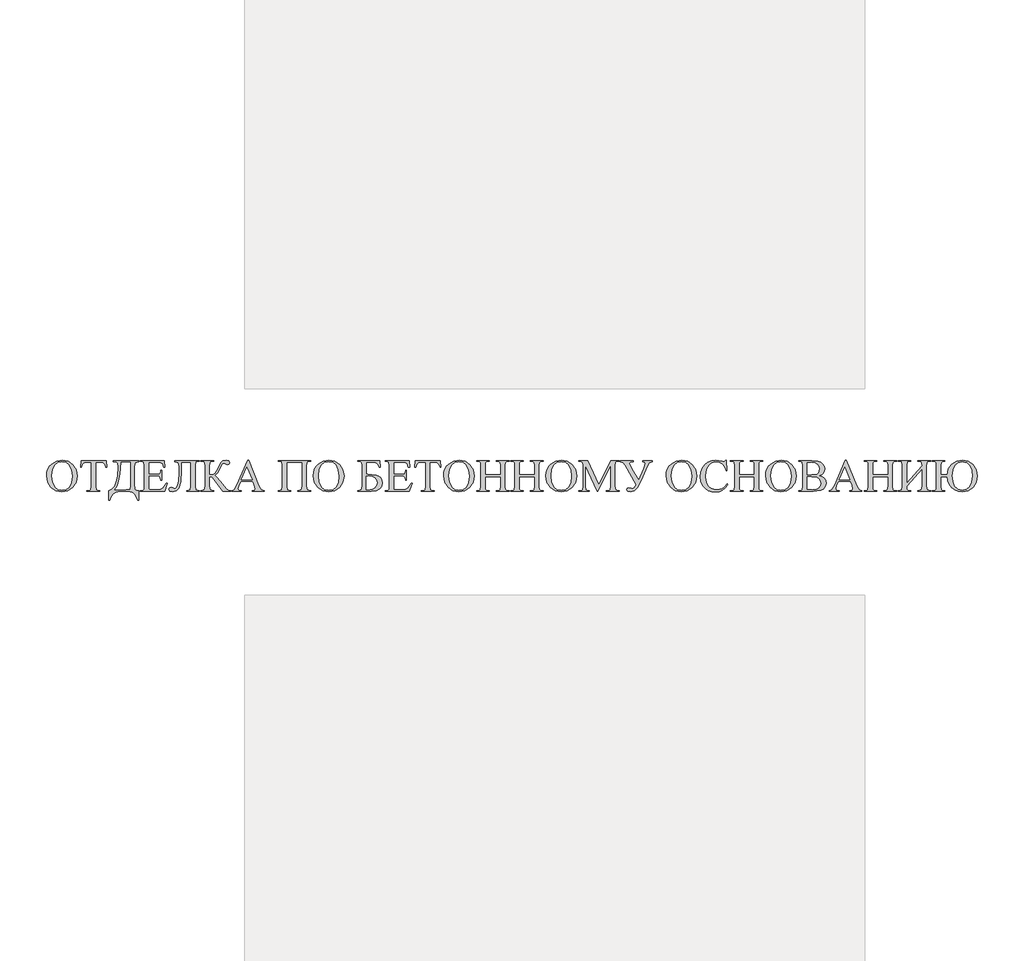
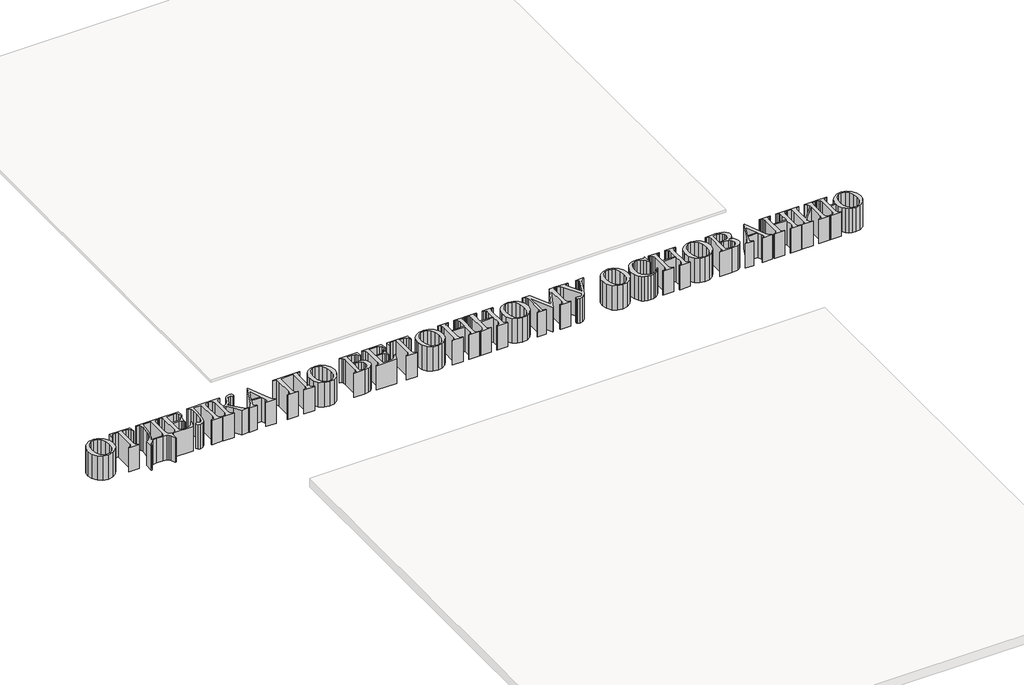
# One storey, part 13 of 17: 1 proxy.
"""IFC4 building model written with IfcOpenShell, lengths in millimetres."""

import ifcopenshell
import ifcopenshell.guid

model = None  # the IFC model being written
_history = None  # IfcOwnerHistory: only IFC2X3 demands one
_inside = {}  # id of a spatial element -> (the spatial element, [elements in it])
_under = {}  # id of a project, library or spatial element -> (it, [spatial elements below it])
_declared = {}  # id of a project -> (the project, [libraries it declares])
_typed = {}  # id of a type object -> (the type object, [elements of that type])
_made_of = {}  # id of a material, layer set ... -> (it, [elements and type objects made of it])


def new_model(schema):
    """Start an empty IFC model of exactly this schema.

    Asked for "IFC4X3", IfcOpenShell would pick the latest addendum, in which some entities
    have other attributes; the version numbers below select the first issue.
    IFC2X3 requires an IfcOwnerHistory on every rooted entity: one is made here for all.
    """
    global model, _history
    if schema == "IFC4X3":
        model = ifcopenshell.file(schema_version=(4, 3, 0, 0))
    else:
        model = ifcopenshell.file(schema=schema)
    _inside.clear()
    _under.clear()
    _declared.clear()
    _typed.clear()
    _made_of.clear()
    _history = None
    if model.schema == "IFC2X3":
        org = make("IfcOrganization", Name="unknown")
        user = make(
            "IfcPersonAndOrganization",
            ThePerson=make("IfcPerson", FamilyName="unknown"),
            TheOrganization=org,
        )
        app = make(
            "IfcApplication",
            ApplicationDeveloper=org,
            Version="unknown",
            ApplicationFullName="unknown",
            ApplicationIdentifier="unknown",
        )
        _history = make(
            "IfcOwnerHistory",
            OwningUser=user,
            OwningApplication=app,
            ChangeAction="ADDED",
            CreationDate=0,
        )
    return model


def make(cls, **values):
    """One entity of the class cls with the attributes given. An attribute that is None is left unset."""
    return model.create_entity(
        cls, **{name: value for name, value in values.items() if value is not None}
    )


def rooted(cls, **values):
    """An entity with a GlobalId (a new one), such as an element, a storey or a relation."""
    return make(cls, GlobalId=ifcopenshell.guid.new(), OwnerHistory=_history, **values)


def si_unit(unit_type, name, prefix=None):
    """IfcSIUnit, for example si_unit("LENGTHUNIT", "METRE", prefix="MILLI")."""
    return make("IfcSIUnit", UnitType=unit_type, Prefix=prefix, Name=name)


def assignment(units):
    """IfcUnitAssignment: the units of a project."""
    return None if units is None else make("IfcUnitAssignment", Units=units)


def point(xyz):
    """IfcCartesianPoint."""
    return None if xyz is None else make("IfcCartesianPoint", Coordinates=xyz)


def direction(xyz):
    """IfcDirection."""
    return None if xyz is None else make("IfcDirection", DirectionRatios=xyz)


def frame(location, z_axis=None, x_axis=None):
    """IfcAxis2Placement3D, a coordinate frame: its origin and axes. An axis left out is left unset."""
    return make(
        "IfcAxis2Placement3D",
        Location=point(location),
        Axis=direction(z_axis),
        RefDirection=direction(x_axis),
    )


def origin():
    """The frame at (0, 0, 0) with its axes left unset."""
    return frame((0.0, 0.0, 0.0))


def origin_with_axes():
    """The frame at (0, 0, 0) with the z axis (0, 0, 1) and the x axis (1, 0, 0) written out."""
    return frame((0.0, 0.0, 0.0), z_axis=(0.0, 0.0, 1.0), x_axis=(1.0, 0.0, 0.0))


def place(relative_to, where):
    """IfcLocalPlacement: puts the frame where relative to a parent placement (None: the world)."""
    return make(
        "IfcLocalPlacement", PlacementRelTo=relative_to, RelativePlacement=where
    )


def context(
    kind, dimensions, precision=None, world=None, true_north=None, identifier=None
):
    """IfcGeometricRepresentationContext, for example the 3D "Model" context."""
    return make(
        "IfcGeometricRepresentationContext",
        ContextIdentifier=identifier,
        ContextType=kind,
        CoordinateSpaceDimension=dimensions,
        Precision=precision,
        WorldCoordinateSystem=world,
        TrueNorth=true_north,
    )


def project(units=None, contexts=None):
    """IfcProject with its units and contexts."""
    return rooted(
        "IfcProject",
        Name="project",
        RepresentationContexts=contexts,
        UnitsInContext=assignment(units),
    )


def spatial(cls, under=None, at=None, **own):
    """A site, building, storey or space (cls), placed at a placement, below another one or the project."""
    s = rooted(cls, ObjectPlacement=at, **own)
    if under is not None:
        _under.setdefault(under.id(), (under, []))[1].append(s)
    return s


def polyline(points):
    """IfcPolyline through the points."""
    return make("IfcPolyline", Points=[point(p) for p in points])


def outline(outer, holes=None, kind="AREA"):
    """IfcArbitraryClosedProfileDef: a profile drawn as a closed curve; with holes, ...WithVoids."""
    if holes is None:
        return make("IfcArbitraryClosedProfileDef", ProfileType=kind, OuterCurve=outer)
    return make(
        "IfcArbitraryProfileDefWithVoids",
        ProfileType=kind,
        OuterCurve=outer,
        InnerCurves=holes,
    )


def extrude(swept, where, along, depth):
    """IfcExtrudedAreaSolid: the profile swept, set in the frame where, extruded along a direction by depth."""
    return make(
        "IfcExtrudedAreaSolid",
        SweptArea=swept,
        Position=where,
        ExtrudedDirection=direction(along),
        Depth=depth,
    )


def shape(context_of_items, identifier, shape_type, items):
    """IfcShapeRepresentation: the items that make up one representation, for example the "Body"."""
    return make(
        "IfcShapeRepresentation",
        ContextOfItems=context_of_items,
        RepresentationIdentifier=identifier,
        RepresentationType=shape_type,
        Items=items,
    )


def made_of(thing, what):
    """Note that an element or type object is made of a material, layer set ...; save() writes the relation."""
    if what is not None:
        _made_of.setdefault(what.id(), (what, []))[1].append(thing)
    return thing


def element(
    cls,
    number,
    at=None,
    inside=None,
    cuts=None,
    type_object=None,
    material=None,
    context=None,
    identifier="Body",
    shape_type=None,
    held_by="IfcProductDefinitionShape",
    body=None,
    shapes=None,
    **own,
):
    """One element of the class cls, such as IfcWall. Its Tag is "e" and its number.

    at: its placement. inside: the storey or other place that contains it. cuts: it is an
    opening in that element (IfcRelVoidsElement). A single representation is given by context,
    identifier, shape_type and body (its items); several are given by shapes. held_by: the class
    of the entity that holds the representations. save() writes the other relations.
    """
    e = rooted(cls, Tag="e%d" % number, ObjectPlacement=at, **own)
    if body is not None:
        shapes = [shape(context, identifier, shape_type, body)]
    if shapes is not None:
        e.Representation = make(held_by, Representations=shapes)
    if inside is not None:
        _inside.setdefault(inside.id(), (inside, []))[1].append(e)
    if cuts is not None:
        rooted(
            "IfcRelVoidsElement", RelatingBuildingElement=cuts, RelatedOpeningElement=e
        )
    if type_object is not None:
        _typed.setdefault(type_object.id(), (type_object, []))[1].append(e)
    return made_of(e, material)


def aggregate(whole, parts):
    """IfcRelAggregates: a whole, such as a stair, and the parts it consists of."""
    return rooted("IfcRelAggregates", RelatingObject=whole, RelatedObjects=parts)


def save(model, path):
    """Write the relations noted so far, then the file.

    IfcRelAggregates (storeys below a building ...), IfcRelContainedInSpatialStructure (elements
    in a storey), IfcRelDefinesByType, IfcRelAssociatesMaterial and IfcRelDeclares: one each for
    every whole, place, type object, material and project.
    """
    for whole, parts in _under.values():
        aggregate(whole, parts)
    for where, things in _inside.values():
        rooted(
            "IfcRelContainedInSpatialStructure",
            RelatedElements=things,
            RelatingStructure=where,
        )
    for kind, things in _typed.values():
        rooted("IfcRelDefinesByType", RelatedObjects=things, RelatingType=kind)
    for what, things in _made_of.values():
        rooted("IfcRelAssociatesMaterial", RelatedObjects=things, RelatingMaterial=what)
    for by, libraries in _declared.values():
        rooted("IfcRelDeclares", RelatingContext=by, RelatedDefinitions=libraries)
    model.write(path)


model = new_model("IFC4")

# Units and contexts
model_context = context("Model", 3, world=origin())
ifc_project = project(units=[si_unit("LENGTHUNIT", "METRE", prefix="MILLI")], contexts=[model_context])

# Site, building, storey
site = spatial("IfcSite", under=ifc_project)
building = spatial("IfcBuilding", under=site)
storey = spatial("IfcBuildingStorey", under=building, Name="Уровень 1", Elevation=0.0)

# Proxy
placement = place(None, origin())
element("IfcBuildingElementProxy", 1, Name="SG_Текст 2", ObjectType="SG_Текст 2", at=placement, inside=storey, context=model_context, shape_type="SweptSolid", body=[
    extrude(outline(polyline([(6805.5457971, 9619.3850863), (6833.251642, 9613.9243699), (6856.9951991, 9597.5422205), (6873.317009, 9572.994138), (6878.7576123, 9543.0356218), (6873.2767827, 9512.2273257), (6856.834294, 9487.1412168), (6832.6080216, 9470.4724553), (6803.7758411, 9464.9162014), (6774.7978403, 9470.3366916), (6750.8581801, 9486.5981621), (6734.7928127, 9511.4680548), (6729.4376902, 9542.7138117), (6730.9838876, 9559.485653), (6735.6224796, 9574.6434152), (6743.3534663, 9588.1870981), (6754.1768476, 9600.116702), (6777.7594996, 9614.5679902), (6805.5457971, 9619.3850863)]), holes=[polyline([(6803.4138046, 9611.6616421), (6784.9700589, 9607.9809382), (6770.5891666, 9596.9388265), (6759.0341699, 9574.3417181), (6755.1825044, 9543.2367532), (6759.1749619, 9511.1965275), (6771.1523344, 9487.4831401), (6785.3823782, 9476.3505193), (6803.5344835, 9472.6396457), (6823.1447911, 9476.7024992), (6839.0140555, 9488.8910596), (6849.5131125, 9509.8388908), (6853.0127981, 9540.1795565), (6849.1611326, 9573.3260047), (6837.6061359, 9596.8181476), (6822.8833203, 9607.9507685), (6803.4138046, 9611.6616421)])]), origin_with_axes(), (0.0, 0.0, 1.0), 150.0),
    extrude(outline(polyline([(7017.7796087, 9616.8106049), (7020.3540901, 9583.3423465), (7016.1705578, 9583.3423465), (7012.7513247, 9596.6170163), (7003.3987164, 9606.0500771), (6987.971941, 9609.0871606), (6966.2899804, 9609.0871606), (6966.2899804, 9493.235497), (6969.186272, 9474.9727695), (6981.8173214, 9470.0651643), (6986.8858317, 9470.0651643), (6986.8858317, 9467.4906828), (6925.0982777, 9467.4906828), (6925.0982777, 9470.0651643), (6930.2472406, 9470.0651643), (6938.1215333, 9471.583706), (6943.320779, 9476.1393313), (6945.6941291, 9493.235497), (6945.6941291, 9609.0871606), (6927.8336643, 9609.0871606), (6913.0303961, 9607.5585623), (6903.255412, 9599.4931947), (6898.4282593, 9583.3423465), (6894.2045008, 9583.3423465), (6896.7789822, 9616.8106049), (7017.7796087, 9616.8106049)])), origin_with_axes(), (0.0, 0.0, 1.0), 150.0),
    extrude(outline(polyline([(7051.2478671, 9616.8106049), (7174.8229749, 9616.8106049), (7174.8229749, 9611.6616421), (7157.9078275, 9607.2769784), (7154.2271236, 9588.6924407), (7154.2271236, 9506.4699405), (7156.9826233, 9476.9840831), (7162.820461, 9472.7603245), (7174.8229749, 9471.352405), (7174.8229749, 9423.7244988), (7169.6740121, 9423.7244988), (7159.3961996, 9450.4950829), (7151.8236039, 9458.9677414), (7143.3056908, 9464.0714497), (7121.764522, 9467.4906828), (7084.9172568, 9467.4906828), (7063.9493125, 9464.04128), (7049.3974585, 9453.6930715), (7040.3264342, 9439.3021227), (7035.8009786, 9423.7244988), (7030.6520157, 9423.7244988), (7030.6520157, 9471.352405), (7046.0033668, 9477.3964023), (7058.186899, 9492.4711978), (7067.162386, 9514.2939504), (7072.8896014, 9540.5818193), (7076.9926812, 9587.3649737), (7074.1366159, 9603.4554825), (7067.358489, 9609.9117992), (7051.2478671, 9611.6616421), (7051.2478671, 9616.8106049)]), holes=[polyline([(7089.8650883, 9609.0871606), (7085.9028005, 9553.1676141), (7079.4867101, 9516.8684318), (7070.5363645, 9493.2103556), (7058.9713113, 9475.2141271), (7113.3572312, 9475.2141271), (7130.7550939, 9477.8087216), (7133.6312723, 9494.7238691), (7133.6312723, 9609.0871606), (7089.8650883, 9609.0871606)])]), origin_with_axes(), (0.0, 0.0, 1.0), 150.0),
    extrude(outline(polyline([(7223.7381218, 9609.0871606), (7223.7381218, 9549.8740881), (7259.7808616, 9549.8740881), (7276.6356696, 9553.5346789), (7281.050503, 9560.1820703), (7282.9511944, 9570.4699394), (7285.5256758, 9570.4699394), (7285.5256758, 9521.5547925), (7282.9511944, 9521.5547925), (7279.8939977, 9534.5076522), (7273.4980204, 9540.1192171), (7259.7808616, 9542.1506439), (7223.7381218, 9542.1506439), (7223.7381218, 9492.1896139), (7224.6633261, 9479.9608272), (7227.901541, 9476.5013678), (7236.6507552, 9475.2141271), (7263.2000948, 9475.2141271), (7282.4885922, 9477.0645356), (7294.0536455, 9484.3857171), (7308.6960085, 9506.1079041), (7313.8449713, 9506.1079041), (7300.2484914, 9467.4906828), (7182.5464192, 9467.4906828), (7182.5464192, 9470.0651643), (7187.6551557, 9470.0651643), (7197.3094611, 9472.7200982), (7201.9153692, 9478.2109844), (7203.1422705, 9493.235497), (7203.1422705, 9591.0657907), (7200.3666577, 9609.5698759), (7187.6551557, 9614.2361235), (7182.5464192, 9614.2361235), (7182.5464192, 9616.8106049), (7298.3980828, 9616.8106049), (7300.9725643, 9583.3423465), (7295.8236014, 9583.3423465), (7290.5539598, 9600.3178333), (7281.9857638, 9607.3574309), (7265.9757075, 9609.0871606), (7223.7381218, 9609.0871606)])), origin_with_axes(), (0.0, 0.0, 1.0), 150.0),
    extrude(outline(polyline([(7427.1221536, 9609.0871606), (7380.7814881, 9609.0871606), (7380.7814881, 9566.8898012), (7377.9958188, 9514.2185262), (7369.6388107, 9483.9633413), (7356.3842541, 9469.6779864), (7338.9059388, 9464.9162014), (7326.073758, 9468.8986024), (7321.5684156, 9478.150645), (7324.4647072, 9485.1299032), (7331.5043048, 9488.0865342), (7339.4288804, 9484.4259434), (7348.4797916, 9480.3630899), (7357.3144866, 9484.3605757), (7364.349056, 9496.3530331), (7368.9499358, 9519.4982244), (7370.4835624, 9556.953912), (7370.4835624, 9588.4108568), (7366.8028586, 9607.2367521), (7349.8877111, 9611.6616421), (7349.8877111, 9616.8106049), (7468.3138562, 9616.8106049), (7468.3138562, 9614.2361235), (7451.3987088, 9609.8313467), (7447.7180049, 9591.0657907), (7447.7180049, 9493.235497), (7451.3987088, 9474.4699411), (7468.3138562, 9470.0651643), (7468.3138562, 9467.4906828), (7406.5263023, 9467.4906828), (7406.5263023, 9470.0651643), (7423.4414497, 9474.4699411), (7427.1221536, 9493.235497), (7427.1221536, 9609.0871606)])), origin_with_axes(), (0.0, 0.0, 1.0), 150.0),
    extrude(outline(polyline([(7621.4150478, 9471.5937626), (7621.4150478, 9467.4906828), (7582.4357901, 9467.4906828), (7555.6450929, 9505.3234918), (7530.7450305, 9536.2977213), (7517.2290031, 9539.5761624), (7517.2290031, 9493.235497), (7520.8493676, 9474.4699411), (7537.8248544, 9470.0651643), (7537.8248544, 9467.4906828), (7476.0373004, 9467.4906828), (7476.0373004, 9470.0651643), (7492.9122216, 9474.4297148), (7496.6331518, 9493.235497), (7496.6331518, 9591.0657907), (7492.9524479, 9609.8313467), (7476.0373004, 9614.2361235), (7476.0373004, 9616.8106049), (7537.8248544, 9616.8106049), (7537.8248544, 9614.2361235), (7520.8493676, 9609.8313467), (7517.2290031, 9591.0657907), (7517.2290031, 9547.2996067), (7534.1039242, 9548.9287707), (7544.6432075, 9555.8476895), (7553.9153632, 9567.4931953), (7562.6846905, 9588.0085941), (7570.8908501, 9606.633358), (7581.1083232, 9615.6239299), (7597.8424524, 9619.3850863), (7610.7550857, 9616.2876633), (7615.0592968, 9606.9953945), (7611.6601768, 9599.4328553), (7603.8763932, 9596.2147536), (7593.3773362, 9600.277607), (7584.3666512, 9603.9381978), (7578.2120316, 9600.1971545), (7570.0460983, 9581.1299015), (7557.8575379, 9557.7483809), (7542.6922333, 9544.8055778), (7553.3924217, 9536.0161374), (7569.3220254, 9516.2449246), (7598.4056202, 9480.6849001), (7608.8644509, 9474.0073389), (7621.4150478, 9471.5937626)])), origin_with_axes(), (0.0, 0.0, 1.0), 150.0),
    extrude(outline(polyline([(7726.6872019, 9516.4058297), (7668.4395599, 9516.4058297), (7658.8254809, 9494.0400224), (7655.0844376, 9480.1217323), (7658.3427656, 9473.6855287), (7672.4219608, 9470.0651643), (7672.4219608, 9467.4906828), (7624.9549598, 9467.4906828), (7624.9549598, 9470.0651643), (7637.1032939, 9474.7314118), (7649.6136646, 9498.1028759), (7701.9882708, 9619.3850863), (7707.4992701, 9619.3850863), (7756.6557746, 9496.1317886), (7768.1202622, 9475.4152584), (7782.440815, 9470.0651643), (7782.440815, 9467.4906828), (7723.4288739, 9467.4906828), (7723.4288739, 9470.0651643), (7735.5168686, 9473.3838317), (7738.674631, 9480.2826374), (7734.2497411, 9497.4190293), (7726.6872019, 9516.4058297)]), holes=[polyline([(7723.5897789, 9524.129274), (7698.7299428, 9584.750266), (7671.7783405, 9524.129274), (7723.5897789, 9524.129274)])]), origin_with_axes(), (0.0, 0.0, 1.0), 150.0),
    extrude(outline(polyline([(7965.1887692, 9609.0871606), (7890.5288082, 9609.0871606), (7890.5288082, 9493.235497), (7894.1491727, 9474.4699411), (7911.1246595, 9470.0651643), (7911.1246595, 9467.4906828), (7849.3371055, 9467.4906828), (7849.3371055, 9470.0651643), (7866.252253, 9474.4699411), (7869.9329569, 9493.235497), (7869.9329569, 9591.0657907), (7866.252253, 9609.8313467), (7849.3371055, 9614.2361235), (7849.3371055, 9616.8106049), (8006.3804718, 9616.8106049), (8006.3804718, 9614.2361235), (7989.4653244, 9609.8313467), (7985.7846205, 9591.0657907), (7985.7846205, 9493.235497), (7989.4653244, 9474.4699411), (8006.3804718, 9470.0651643), (8006.3804718, 9467.4906828), (7944.5929179, 9467.4906828), (7944.5929179, 9470.0651643), (7961.4879522, 9474.4297148), (7965.1887692, 9493.235497), (7965.1887692, 9609.0871606)])), origin_with_axes(), (0.0, 0.0, 1.0), 150.0),
    extrude(outline(polyline([(8095.3609857, 9619.3850863), (8123.0668306, 9613.9243699), (8146.8103877, 9597.5422205), (8163.1321976, 9572.994138), (8168.5728009, 9543.0356218), (8163.0919714, 9512.2273257), (8146.6494826, 9487.1412168), (8122.4232103, 9470.4724553), (8093.5910297, 9464.9162014), (8064.613029, 9470.3366916), (8040.6733688, 9486.5981621), (8024.6080014, 9511.4680548), (8019.2528789, 9542.7138117), (8020.7990762, 9559.485653), (8025.4376682, 9574.6434152), (8033.1686549, 9588.1870981), (8043.9920362, 9600.116702), (8067.5746883, 9614.5679902), (8095.3609857, 9619.3850863)]), holes=[polyline([(8093.2289933, 9611.6616421), (8074.7852475, 9607.9809382), (8060.4043552, 9596.9388265), (8048.8493586, 9574.3417181), (8044.997693, 9543.2367532), (8048.9901505, 9511.1965275), (8060.9675231, 9487.4831401), (8075.1975668, 9476.3505193), (8093.3496721, 9472.6396457), (8112.9599797, 9476.7024992), (8128.8292441, 9488.8910596), (8139.3283011, 9509.8388908), (8142.8279868, 9540.1795565), (8138.9763212, 9573.3260047), (8127.4213246, 9596.8181476), (8112.698509, 9607.9507685), (8093.2289933, 9611.6616421)])]), origin_with_axes(), (0.0, 0.0, 1.0), 150.0),
    extrude(outline(polyline([(8341.6262235, 9616.8106049), (8343.6375371, 9583.3423465), (8338.4885743, 9583.3423465), (8334.0385429, 9596.9941376), (8327.6878202, 9604.561705), (8317.5457714, 9607.9557967), (8301.7217616, 9609.0871606), (8276.7010203, 9609.0871606), (8276.7010203, 9549.8740881), (8282.8154137, 9549.8740881), (8324.1277951, 9546.3945156), (8336.1001394, 9541.320977), (8345.6287376, 9533.0595064), (8351.8587815, 9522.218526), (8353.9354628, 9509.4064584), (8350.8430681, 9493.7332971), (8341.5658841, 9480.1016191), (8324.7161044, 9470.6434169), (8298.9059225, 9467.4906828), (8235.5093177, 9467.4906828), (8235.5093177, 9470.0651643), (8252.4244651, 9474.4699411), (8256.105169, 9493.235497), (8256.105169, 9591.0657907), (8254.476005, 9606.4121135), (8249.1661371, 9612.0236785), (8235.5093177, 9614.2361235), (8235.5093177, 9616.8106049), (8341.6262235, 9616.8106049)]), holes=[polyline([(8276.7010203, 9476.7829517), (8292.0674563, 9475.2141271), (8305.2063624, 9477.4869115), (8317.0278581, 9484.3052646), (8325.399951, 9495.1361883), (8328.1906486, 9509.4466846), (8325.2742439, 9523.9432275), (8316.5250297, 9534.1255026), (8303.2905862, 9540.1443585), (8286.9184934, 9542.1506439), (8276.7010203, 9541.2656659), (8276.7010203, 9476.7829517)])]), origin_with_axes(), (0.0, 0.0, 1.0), 150.0),
    extrude(outline(polyline([(8407.9995725, 9609.0871606), (8407.9995725, 9549.8740881), (8444.0423123, 9549.8740881), (8460.8971203, 9553.5346789), (8465.3119536, 9560.1820703), (8467.212645, 9570.4699394), (8469.7871264, 9570.4699394), (8469.7871264, 9521.5547925), (8467.212645, 9521.5547925), (8464.1554483, 9534.5076522), (8457.7594711, 9540.1192171), (8444.0423123, 9542.1506439), (8407.9995725, 9542.1506439), (8407.9995725, 9492.1896139), (8408.9247767, 9479.9608272), (8412.1629916, 9476.5013678), (8420.9122058, 9475.2141271), (8447.4615454, 9475.2141271), (8466.7500429, 9477.0645356), (8478.3150961, 9484.3857171), (8492.9574591, 9506.1079041), (8498.106422, 9506.1079041), (8484.509942, 9467.4906828), (8366.8078698, 9467.4906828), (8366.8078698, 9470.0651643), (8371.9166064, 9470.0651643), (8381.5709117, 9472.7200982), (8386.1768199, 9478.2109844), (8387.4037212, 9493.235497), (8387.4037212, 9591.0657907), (8384.6281084, 9609.5698759), (8371.9166064, 9614.2361235), (8366.8078698, 9614.2361235), (8366.8078698, 9616.8106049), (8482.6595335, 9616.8106049), (8485.2340149, 9583.3423465), (8480.0850521, 9583.3423465), (8474.8154104, 9600.3178333), (8466.2472145, 9607.3574309), (8450.2371582, 9609.0871606), (8407.9995725, 9609.0871606)])), origin_with_axes(), (0.0, 0.0, 1.0), 150.0),
    extrude(outline(polyline([(8634.5539369, 9616.8106049), (8637.1284184, 9583.3423465), (8632.9448861, 9583.3423465), (8629.5256529, 9596.6170163), (8620.1730447, 9606.0500771), (8604.7462693, 9609.0871606), (8583.0643087, 9609.0871606), (8583.0643087, 9493.235497), (8585.9606002, 9474.9727695), (8598.5916497, 9470.0651643), (8603.66016, 9470.0651643), (8603.66016, 9467.4906828), (8541.872606, 9467.4906828), (8541.872606, 9470.0651643), (8547.0215689, 9470.0651643), (8554.8958616, 9471.583706), (8560.0951073, 9476.1393313), (8562.4684573, 9493.235497), (8562.4684573, 9609.0871606), (8544.6079925, 9609.0871606), (8529.8047244, 9607.5585623), (8520.0297403, 9599.4931947), (8515.2025876, 9583.3423465), (8510.978829, 9583.3423465), (8513.5533105, 9616.8106049), (8634.5539369, 9616.8106049)])), origin_with_axes(), (0.0, 0.0, 1.0), 150.0),
    extrude(outline(polyline([(8726.1089322, 9619.3850863), (8753.8147772, 9613.9243699), (8777.5583343, 9597.5422205), (8793.8801442, 9572.994138), (8799.3207475, 9543.0356218), (8793.8399179, 9512.2273257), (8777.3974292, 9487.1412168), (8753.1711568, 9470.4724553), (8724.3389763, 9464.9162014), (8695.3609755, 9470.3366916), (8671.4213153, 9486.5981621), (8655.3559479, 9511.4680548), (8650.0008254, 9542.7138117), (8651.5470228, 9559.485653), (8656.1856148, 9574.6434152), (8663.9166014, 9588.1870981), (8674.7399828, 9600.116702), (8698.3226348, 9614.5679902), (8726.1089322, 9619.3850863)]), holes=[polyline([(8723.9769398, 9611.6616421), (8705.5331941, 9607.9809382), (8691.1523018, 9596.9388265), (8679.5973051, 9574.3417181), (8675.7456396, 9543.2367532), (8679.7380971, 9511.1965275), (8691.7154696, 9487.4831401), (8705.9455134, 9476.3505193), (8724.0976186, 9472.6396457), (8743.7079263, 9476.7024992), (8759.5771906, 9488.8910596), (8770.0762477, 9509.8388908), (8773.5759333, 9540.1795565), (8769.7242678, 9573.3260047), (8758.1692711, 9596.8181476), (8743.4464555, 9607.9507685), (8723.9769398, 9611.6616421)])]), origin_with_axes(), (0.0, 0.0, 1.0), 150.0),
    extrude(outline(polyline([(8850.8103758, 9547.2996067), (8925.4703368, 9547.2996067), (8925.4703368, 9591.0657907), (8924.1026435, 9606.633358), (8919.6375273, 9611.500737), (8909.983222, 9614.2361235), (8904.8744855, 9614.2361235), (8904.8744855, 9616.8106049), (8966.6620394, 9616.8106049), (8966.6620394, 9614.2361235), (8961.5533029, 9614.2361235), (8951.8989975, 9611.6214158), (8947.2930894, 9606.1104165), (8946.0661881, 9591.0657907), (8946.0661881, 9493.235497), (8947.4338813, 9477.708156), (8951.818545, 9472.8005508), (8961.5533029, 9470.0651643), (8966.6620394, 9470.0651643), (8966.6620394, 9467.4906828), (8904.8744855, 9467.4906828), (8904.8744855, 9470.0651643), (8909.983222, 9470.0651643), (8917.596044, 9471.4630272), (8922.8154028, 9475.6566161), (8925.4703368, 9493.235497), (8925.4703368, 9539.5761624), (8850.8103758, 9539.5761624), (8850.8103758, 9493.235497), (8852.178069, 9477.708156), (8856.6029589, 9472.8005508), (8866.217038, 9470.0651643), (8871.4062271, 9470.0651643), (8871.4062271, 9467.4906828), (8809.6186731, 9467.4906828), (8809.6186731, 9470.0651643), (8814.7274097, 9470.0651643), (8822.4106277, 9471.4630272), (8827.6802693, 9475.6566161), (8830.2145244, 9493.235497), (8830.2145244, 9591.0657907), (8828.8468312, 9606.633358), (8824.4621675, 9611.500737), (8814.7274097, 9614.2361235), (8809.6186731, 9614.2361235), (8809.6186731, 9616.8106049), (8871.4062271, 9616.8106049), (8871.4062271, 9614.2361235), (8866.217038, 9614.2361235), (8856.6029589, 9611.6214158), (8852.0775033, 9606.1104165), (8850.8103758, 9591.0657907), (8850.8103758, 9547.2996067)])), origin_with_axes(), (0.0, 0.0, 1.0), 150.0),
    extrude(outline(polyline([(9015.5771863, 9547.2996067), (9090.2371473, 9547.2996067), (9090.2371473, 9591.0657907), (9088.869454, 9606.633358), (9084.4043378, 9611.500737), (9074.7500325, 9614.2361235), (9069.641296, 9614.2361235), (9069.641296, 9616.8106049), (9131.4288499, 9616.8106049), (9131.4288499, 9614.2361235), (9126.3201134, 9614.2361235), (9116.6658081, 9611.6214158), (9112.0598999, 9606.1104165), (9110.8329986, 9591.0657907), (9110.8329986, 9493.235497), (9112.2006919, 9477.708156), (9116.5853555, 9472.8005508), (9126.3201134, 9470.0651643), (9131.4288499, 9470.0651643), (9131.4288499, 9467.4906828), (9069.641296, 9467.4906828), (9069.641296, 9470.0651643), (9074.7500325, 9470.0651643), (9082.3628545, 9471.4630272), (9087.5822133, 9475.6566161), (9090.2371473, 9493.235497), (9090.2371473, 9539.5761624), (9015.5771863, 9539.5761624), (9015.5771863, 9493.235497), (9016.9448795, 9477.708156), (9021.3697695, 9472.8005508), (9030.9838485, 9470.0651643), (9036.1730376, 9470.0651643), (9036.1730376, 9467.4906828), (8974.3854837, 9467.4906828), (8974.3854837, 9470.0651643), (8979.4942202, 9470.0651643), (8987.1774382, 9471.4630272), (8992.4470798, 9475.6566161), (8994.981335, 9493.235497), (8994.981335, 9591.0657907), (8993.6136417, 9606.633358), (8989.2289781, 9611.500737), (8979.4942202, 9614.2361235), (8974.3854837, 9614.2361235), (8974.3854837, 9616.8106049), (9036.1730376, 9616.8106049), (9036.1730376, 9614.2361235), (9030.9838485, 9614.2361235), (9021.3697695, 9611.6214158), (9016.8443139, 9606.1104165), (9015.5771863, 9591.0657907), (9015.5771863, 9547.2996067)])), origin_with_axes(), (0.0, 0.0, 1.0), 150.0),
    extrude(outline(polyline([(9220.4093638, 9619.3850863), (9248.1152087, 9613.9243699), (9271.8587658, 9597.5422205), (9288.1805757, 9572.994138), (9293.621179, 9543.0356218), (9288.1403495, 9512.2273257), (9271.6978607, 9487.1412168), (9247.4715884, 9470.4724553), (9218.6394078, 9464.9162014), (9189.6614071, 9470.3366916), (9165.7217469, 9486.5981621), (9149.6563795, 9511.4680548), (9144.301257, 9542.7138117), (9145.8474543, 9559.485653), (9150.4860463, 9574.6434152), (9158.217033, 9588.1870981), (9169.0404143, 9600.116702), (9192.6230664, 9614.5679902), (9220.4093638, 9619.3850863)]), holes=[polyline([(9218.2773714, 9611.6616421), (9199.8336256, 9607.9809382), (9185.4527334, 9596.9388265), (9173.8977367, 9574.3417181), (9170.0460711, 9543.2367532), (9174.0385287, 9511.1965275), (9186.0159012, 9487.4831401), (9200.2459449, 9476.3505193), (9218.3980502, 9472.6396457), (9238.0083579, 9476.7024992), (9253.8776222, 9488.8910596), (9264.3766792, 9509.8388908), (9267.8763649, 9540.1795565), (9264.0246993, 9573.3260047), (9252.4697027, 9596.8181476), (9237.7468871, 9607.9507685), (9218.2773714, 9611.6616421)])]), origin_with_axes(), (0.0, 0.0, 1.0), 150.0),
    extrude(outline(polyline([(9394.0259542, 9467.4906828), (9334.8128817, 9593.1173306), (9334.8128817, 9493.235497), (9337.7091733, 9474.9727695), (9350.2597702, 9470.0651643), (9355.408733, 9470.0651643), (9355.408733, 9467.4906828), (9303.9191047, 9467.4906828), (9303.9191047, 9470.0651643), (9309.0680675, 9470.0651643), (9316.9423603, 9471.583706), (9322.141606, 9476.1393313), (9324.514956, 9493.235497), (9324.514956, 9591.0657907), (9322.3829636, 9606.2713216), (9316.831738, 9611.9633391), (9303.9191047, 9614.2361235), (9303.9191047, 9616.8106049), (9346.1969167, 9616.8106049), (9401.3069095, 9499.6717005), (9458.9109311, 9616.8106049), (9499.5796922, 9616.8106049), (9499.5796922, 9614.2361235), (9494.5514082, 9614.2361235), (9486.5866063, 9612.7175817), (9481.3571909, 9608.1619564), (9478.9838409, 9591.0657907), (9478.9838409, 9493.235497), (9482.0008113, 9474.9727695), (9494.5514082, 9470.0651643), (9499.5796922, 9470.0651643), (9499.5796922, 9467.4906828), (9437.7921383, 9467.4906828), (9437.7921383, 9470.0651643), (9442.9411011, 9470.0651643), (9450.8757333, 9471.583706), (9456.0146395, 9476.1393313), (9458.3879896, 9493.235497), (9458.3879896, 9593.1173306), (9396.6004356, 9467.4906828), (9394.0259542, 9467.4906828)])), origin_with_axes(), (0.0, 0.0, 1.0), 150.0),
    extrude(outline(polyline([(9504.728655, 9616.8106049), (9566.516209, 9616.8106049), (9566.516209, 9611.6616421), (9553.0001815, 9609.3888577), (9548.4948391, 9603.7772927), (9560.4420419, 9578.1531574), (9593.5482638, 9521.1927561), (9618.0058373, 9578.1531574), (9625.7292815, 9601.8464317), (9622.5111797, 9608.2826352), (9612.8568744, 9611.6616421), (9612.8568744, 9616.8106049), (9659.1975399, 9616.8106049), (9659.1975399, 9611.6616421), (9644.6859122, 9605.3360608), (9634.1365724, 9590.1405865), (9605.1334302, 9522.3995443), (9586.770137, 9485.6126184), (9571.3433616, 9469.9042592), (9554.0058384, 9464.9162014), (9540.9524131, 9468.0136244), (9535.622432, 9476.4611415), (9538.3578185, 9482.9375713), (9545.7996788, 9485.5120527), (9556.7814511, 9482.3341772), (9563.2578809, 9480.3630899), (9572.429471, 9485.2002991), (9582.6469441, 9499.7119268), (9528.2207979, 9593.2380094), (9517.7619672, 9606.4523398), (9504.728655, 9611.6616421), (9504.728655, 9616.8106049)])), origin_with_axes(), (0.0, 0.0, 1.0), 150.0),
    extrude(outline(polyline([(9802.2421635, 9619.3850863), (9829.9480084, 9613.9243699), (9853.6915655, 9597.5422205), (9870.0133754, 9572.994138), (9875.4539787, 9543.0356218), (9869.9731491, 9512.2273257), (9853.5306604, 9487.1412168), (9829.304388, 9470.4724553), (9800.4722075, 9464.9162014), (9771.4942067, 9470.3366916), (9747.5545466, 9486.5981621), (9731.4891791, 9511.4680548), (9726.1340567, 9542.7138117), (9727.680254, 9559.485653), (9732.318846, 9574.6434152), (9740.0498327, 9588.1870981), (9750.873214, 9600.116702), (9774.455866, 9614.5679902), (9802.2421635, 9619.3850863)]), holes=[polyline([(9800.1101711, 9611.6616421), (9781.6664253, 9607.9809382), (9767.285533, 9596.9388265), (9755.7305364, 9574.3417181), (9751.8788708, 9543.2367532), (9755.8713283, 9511.1965275), (9767.8487008, 9487.4831401), (9782.0787446, 9476.3505193), (9800.2308499, 9472.6396457), (9819.8411575, 9476.7024992), (9835.7104219, 9488.8910596), (9846.2094789, 9509.8388908), (9849.7091646, 9540.1795565), (9845.857499, 9573.3260047), (9834.3025023, 9596.8181476), (9819.5796868, 9607.9507685), (9800.1101711, 9611.6616421)])]), origin_with_axes(), (0.0, 0.0, 1.0), 150.0),
    extrude(outline(polyline([(10017.0504565, 9619.3850863), (10019.6249379, 9567.895458), (10017.0504565, 9567.895458), (10008.9398344, 9587.9231132), (9997.9630904, 9601.4240558), (9984.3213559, 9609.1022455), (9968.2157622, 9611.6616421), (9954.3527832, 9609.8062053), (9941.8876671, 9604.2398949), (9931.3785535, 9594.6057027), (9923.3835819, 9580.5466206), (9918.3301565, 9562.2889213), (9916.6456813, 9540.0588777), (9918.2497039, 9521.4341137), (9923.0617717, 9505.4642837), (9931.1019979, 9492.5315372), (9942.3904955, 9483.0180239), (9956.20822, 9477.1651013), (9971.8361267, 9475.2141271), (9997.1987912, 9480.9061446), (10008.738703, 9489.4089729), (10021.3546676, 9503.5334226), (10024.7739007, 9500.9589412), (10012.6607646, 9484.7628384), (9998.6871633, 9473.5849631), (9982.3804382, 9467.0833918), (9963.2679307, 9464.9162014), (9945.8273276, 9466.6182756), (9930.4734624, 9471.724498), (9917.206335, 9480.2348687), (9906.0259455, 9492.1493876), (9894.6821368, 9514.2134979), (9890.9008672, 9539.8577464), (9893.3999243, 9561.0821332), (9900.8970958, 9580.5063943), (9912.7789309, 9596.9438547), (9928.4319791, 9609.2078395), (9946.7852157, 9616.8407746), (9966.7676164, 9619.3850863), (9998.6268239, 9613.4718243), (10005.2239325, 9611.6616421), (10010.4131216, 9613.2304667), (10014.4759751, 9619.3850863), (10017.0504565, 9619.3850863)])), origin_with_axes(), (0.0, 0.0, 1.0), 150.0),
    extrude(outline(polyline([(10078.8380104, 9547.2996067), (10153.4979715, 9547.2996067), (10153.4979715, 9591.0657907), (10152.1302782, 9606.633358), (10147.665162, 9611.500737), (10138.0108567, 9614.2361235), (10132.9021202, 9614.2361235), (10132.9021202, 9616.8106049), (10194.6896741, 9616.8106049), (10194.6896741, 9614.2361235), (10189.5809375, 9614.2361235), (10179.9266322, 9611.6214158), (10175.3207241, 9606.1104165), (10174.0938228, 9591.0657907), (10174.0938228, 9493.235497), (10175.461516, 9477.708156), (10179.8461797, 9472.8005508), (10189.5809375, 9470.0651643), (10194.6896741, 9470.0651643), (10194.6896741, 9467.4906828), (10132.9021202, 9467.4906828), (10132.9021202, 9470.0651643), (10138.0108567, 9470.0651643), (10145.6236787, 9471.4630272), (10150.8430375, 9475.6566161), (10153.4979715, 9493.235497), (10153.4979715, 9539.5761624), (10078.8380104, 9539.5761624), (10078.8380104, 9493.235497), (10080.2057037, 9477.708156), (10084.6305936, 9472.8005508), (10094.2446727, 9470.0651643), (10099.4338618, 9470.0651643), (10099.4338618, 9467.4906828), (10037.6463078, 9467.4906828), (10037.6463078, 9470.0651643), (10042.7550444, 9470.0651643), (10050.4382623, 9471.4630272), (10055.707904, 9475.6566161), (10058.2421591, 9493.235497), (10058.2421591, 9591.0657907), (10056.8744659, 9606.633358), (10052.4898022, 9611.500737), (10042.7550444, 9614.2361235), (10037.6463078, 9614.2361235), (10037.6463078, 9616.8106049), (10099.4338618, 9616.8106049), (10099.4338618, 9614.2361235), (10094.2446727, 9614.2361235), (10084.6305936, 9611.6214158), (10080.105138, 9606.1104165), (10078.8380104, 9591.0657907), (10078.8380104, 9547.2996067)])), origin_with_axes(), (0.0, 0.0, 1.0), 150.0),
    extrude(outline(polyline([(10283.670188, 9619.3850863), (10311.3760329, 9613.9243699), (10335.11959, 9597.5422205), (10351.4413999, 9572.994138), (10356.8820032, 9543.0356218), (10351.4011736, 9512.2273257), (10334.9586849, 9487.1412168), (10310.7324125, 9470.4724553), (10281.900232, 9464.9162014), (10252.9222313, 9470.3366916), (10228.9825711, 9486.5981621), (10212.9172036, 9511.4680548), (10207.5620812, 9542.7138117), (10209.1082785, 9559.485653), (10213.7468705, 9574.6434152), (10221.4778572, 9588.1870981), (10232.3012385, 9600.116702), (10255.8838905, 9614.5679902), (10283.670188, 9619.3850863)]), holes=[polyline([(10281.5381956, 9611.6616421), (10263.0944498, 9607.9809382), (10248.7135575, 9596.9388265), (10237.1585609, 9574.3417181), (10233.3068953, 9543.2367532), (10237.2993528, 9511.1965275), (10249.2767253, 9487.4831401), (10263.5067691, 9476.3505193), (10281.6588744, 9472.6396457), (10301.269182, 9476.7024992), (10317.1384464, 9488.8910596), (10327.6375034, 9509.8388908), (10331.1371891, 9540.1795565), (10327.2855235, 9573.3260047), (10315.7305269, 9596.8181476), (10301.0077113, 9607.9507685), (10281.5381956, 9611.6616421)])]), origin_with_axes(), (0.0, 0.0, 1.0), 150.0),
    extrude(outline(polyline([(10466.7399523, 9542.8344905), (10480.4571111, 9538.5906188), (10490.2320952, 9532.3756597), (10498.3477456, 9521.2430389), (10501.0529624, 9507.87786), (10499.2980913, 9497.1223605), (10494.0334779, 9486.8194066), (10485.7116679, 9478.1053904), (10474.7852067, 9472.1167041), (10437.415, 9467.4906828), (10367.1799289, 9467.4906828), (10367.1799289, 9470.0651643), (10372.5300231, 9470.0651643), (10380.2031845, 9471.6038192), (10385.3622039, 9476.2197839), (10387.7757802, 9493.235497), (10387.7757802, 9591.0657907), (10384.7185835, 9609.2078395), (10372.5300231, 9614.2361235), (10367.1799289, 9614.2361235), (10367.1799289, 9616.8106049), (10431.059249, 9616.8106049), (10459.740581, 9614.1556709), (10474.1717561, 9608.5893605), (10484.7210959, 9599.9356837), (10491.1774126, 9588.9689963), (10493.3295182, 9576.463654), (10491.645043, 9565.7131827), (10486.5916176, 9556.1493866), (10478.259751, 9548.3354332), (10466.7399523, 9542.8344905)]), holes=[polyline([(10408.3716315, 9548.8684313), (10417.7845792, 9547.7018694), (10429.4099718, 9547.2996067), (10453.8876584, 9550.7992924), (10460.7160681, 9555.2241823), (10464.8292044, 9561.4994807), (10467.584704, 9577.2681794), (10465.0202792, 9589.4919378), (10457.3270046, 9599.7747786), (10444.7160683, 9606.7590651), (10427.3986582, 9609.0871606), (10408.3716315, 9606.633358), (10408.3716315, 9548.8684313)]), polyline([(10408.3716315, 9478.150645), (10433.9153143, 9475.2141271), (10451.7104114, 9477.4316003), (10464.7085256, 9484.0840201), (10472.6582426, 9493.9947679), (10475.3081483, 9505.9872252), (10470.4608825, 9522.5001099), (10464.1252446, 9529.600047), (10454.8128626, 9535.0104806), (10428.0825048, 9539.5761624), (10416.276094, 9539.354918), (10408.3716315, 9538.6107319), (10408.3716315, 9478.150645)])]), origin_with_axes(), (0.0, 0.0, 1.0), 150.0),
    extrude(outline(polyline([(10617.8298303, 9516.4058297), (10559.5821883, 9516.4058297), (10549.9681093, 9494.0400224), (10546.227066, 9480.1217323), (10549.485394, 9473.6855287), (10563.5645893, 9470.0651643), (10563.5645893, 9467.4906828), (10516.0975882, 9467.4906828), (10516.0975882, 9470.0651643), (10528.2459224, 9474.7314118), (10540.756293, 9498.1028759), (10593.1308993, 9619.3850863), (10598.6418985, 9619.3850863), (10647.798403, 9496.1317886), (10659.2628906, 9475.4152584), (10673.5834435, 9470.0651643), (10673.5834435, 9467.4906828), (10614.5715023, 9467.4906828), (10614.5715023, 9470.0651643), (10626.6594971, 9473.3838317), (10629.8172594, 9480.2826374), (10625.3923695, 9497.4190293), (10617.8298303, 9516.4058297)]), holes=[polyline([(10614.7324074, 9524.129274), (10589.8725712, 9584.750266), (10562.9209689, 9524.129274), (10614.7324074, 9524.129274)])]), origin_with_axes(), (0.0, 0.0, 1.0), 150.0),
    extrude(outline(polyline([(10725.0328455, 9547.2996067), (10799.6928065, 9547.2996067), (10799.6928065, 9591.0657907), (10798.3251132, 9606.633358), (10793.859997, 9611.500737), (10784.2056917, 9614.2361235), (10779.0969552, 9614.2361235), (10779.0969552, 9616.8106049), (10840.8845091, 9616.8106049), (10840.8845091, 9614.2361235), (10835.7757726, 9614.2361235), (10826.1214673, 9611.6214158), (10821.5155591, 9606.1104165), (10820.2886578, 9591.0657907), (10820.2886578, 9493.235497), (10821.6563511, 9477.708156), (10826.0410147, 9472.8005508), (10835.7757726, 9470.0651643), (10840.8845091, 9470.0651643), (10840.8845091, 9467.4906828), (10779.0969552, 9467.4906828), (10779.0969552, 9470.0651643), (10784.2056917, 9470.0651643), (10791.8185137, 9471.4630272), (10797.0378725, 9475.6566161), (10799.6928065, 9493.235497), (10799.6928065, 9539.5761624), (10725.0328455, 9539.5761624), (10725.0328455, 9493.235497), (10726.4005387, 9477.708156), (10730.8254287, 9472.8005508), (10740.4395077, 9470.0651643), (10745.6286968, 9470.0651643), (10745.6286968, 9467.4906828), (10683.8411428, 9467.4906828), (10683.8411428, 9470.0651643), (10688.9498794, 9470.0651643), (10696.6330974, 9471.4630272), (10701.902739, 9475.6566161), (10704.4369942, 9493.235497), (10704.4369942, 9591.0657907), (10703.0693009, 9606.633358), (10698.6846373, 9611.500737), (10688.9498794, 9614.2361235), (10683.8411428, 9614.2361235), (10683.8411428, 9616.8106049), (10745.6286968, 9616.8106049), (10745.6286968, 9614.2361235), (10740.4395077, 9614.2361235), (10730.8254287, 9611.6214158), (10726.299973, 9606.1104165), (10725.0328455, 9591.0657907), (10725.0328455, 9547.2996067)])), origin_with_axes(), (0.0, 0.0, 1.0), 150.0),
    extrude(outline(polyline([(10964.459617, 9591.0657907), (10960.3766504, 9610.2134963), (10943.8637657, 9614.2361235), (10943.8637657, 9616.8106049), (11005.6513197, 9616.8106049), (11005.6513197, 9614.2361235), (10988.7361722, 9609.8313467), (10985.0554683, 9591.0657907), (10985.0554683, 9493.235497), (10988.7361722, 9474.4699411), (11005.6513197, 9470.0651643), (11005.6513197, 9467.4906828), (10943.8637657, 9467.4906828), (10943.8637657, 9470.0651643), (10960.8392525, 9474.5302805), (10964.459617, 9493.235497), (10964.459617, 9578.1933837), (10889.799656, 9493.235497), (10891.0064442, 9478.4121157), (10896.1151807, 9472.4787406), (10910.3955073, 9470.0651643), (10910.3955073, 9467.4906828), (10848.6079534, 9467.4906828), (10848.6079534, 9470.0651643), (10865.5231008, 9474.4699411), (10869.2038047, 9493.235497), (10869.2038047, 9591.0657907), (10865.5231008, 9609.8313467), (10848.6079534, 9614.2361235), (10848.6079534, 9616.8106049), (10910.3955073, 9616.8106049), (10910.3955073, 9614.2361235), (10893.4602468, 9609.8313467), (10889.799656, 9591.0657907), (10889.799656, 9506.1079041), (10964.459617, 9591.0657907)])), origin_with_axes(), (0.0, 0.0, 1.0), 150.0),
    extrude(outline(polyline([(11085.4602435, 9539.5761624), (11054.5664665, 9539.5761624), (11054.5664665, 9493.235497), (11057.8449077, 9474.751525), (11062.9988988, 9471.2367544), (11071.9039898, 9470.0651643), (11075.1623178, 9470.0651643), (11075.1623178, 9467.4906828), (11013.3747639, 9467.4906828), (11013.3747639, 9470.0651643), (11017.7192013, 9470.0651643), (11027.5947511, 9472.3379486), (11032.7437139, 9478.2713238), (11033.9706152, 9493.235497), (11033.9706152, 9591.0657907), (11032.6431482, 9606.1305296), (11027.433846, 9612.1845836), (11016.6733182, 9614.2361235), (11013.3747639, 9614.2361235), (11013.3747639, 9616.8106049), (11075.1623178, 9616.8106049), (11075.1623178, 9614.2361235), (11071.9039898, 9614.2361235), (11060.9021044, 9612.0035654), (11056.0950649, 9606.633358), (11054.5664665, 9591.0657907), (11054.5664665, 9547.2996067), (11085.4602435, 9547.2996067), (11092.0975784, 9576.322862), (11108.9523864, 9599.3524028), (11132.7763961, 9614.3769154), (11160.3213359, 9619.3850863), (11187.0064391, 9614.0199073), (11210.4231578, 9597.9243701), (11226.7600525, 9573.4416553), (11232.2056841, 9542.914943), (11226.9963819, 9513.0771057), (11211.3684752, 9487.8451765), (11187.7154272, 9470.6484452), (11158.4307011, 9464.9162014), (11138.8505631, 9467.3197212), (11121.6236621, 9474.5302805), (11107.1271193, 9486.0199094), (11095.738056, 9501.2606383), (11088.2509411, 9519.3976587), (11085.4602435, 9539.5761624)]), holes=[polyline([(11158.269796, 9611.6616421), (11139.1120339, 9607.2820067), (11124.117691, 9594.1431006), (11114.433216, 9572.657243), (11111.2050576, 9543.2367532), (11114.2320846, 9514.9023728), (11123.3131655, 9492.3304059), (11138.1365468, 9477.5623357), (11158.3904748, 9472.6396457), (11178.3527623, 9476.9639699), (11193.5884629, 9489.9369427), (11203.2427682, 9511.1462446), (11206.46087, 9540.1795565), (11203.433843, 9569.9821959), (11194.3527621, 9592.6145022), (11179.2779666, 9606.8998571), (11158.269796, 9611.6616421)])]), origin_with_axes(), (0.0, 0.0, 1.0), 150.0),
])

save(model, "model.ifc")
